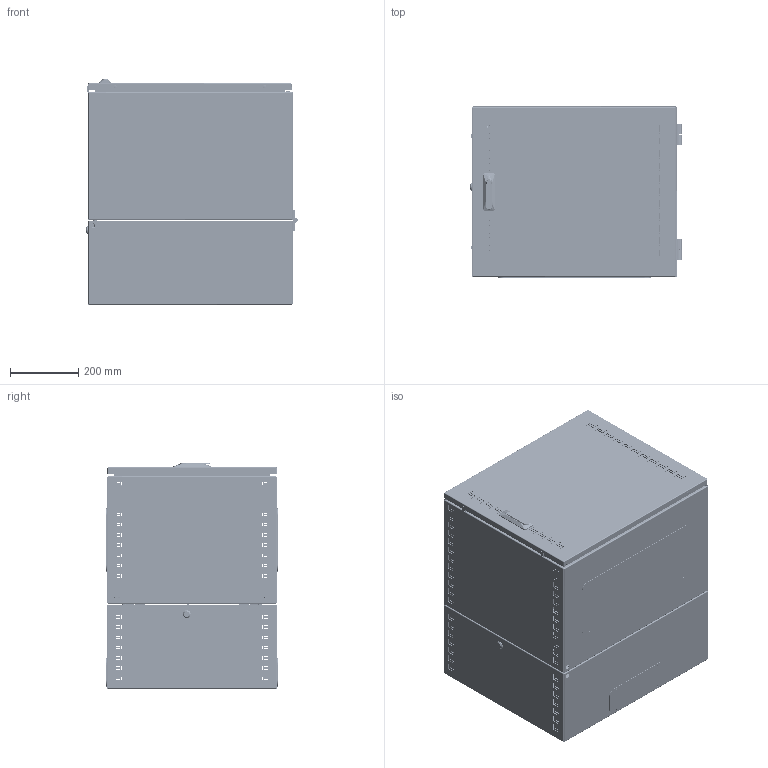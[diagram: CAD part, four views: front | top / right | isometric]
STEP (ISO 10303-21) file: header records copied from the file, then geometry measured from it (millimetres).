
FILE_DESCRIPTION (( 'STEP AP203' ), '1' );
FILE_NAME ('R5STI0965.STEP', '2019-07-16T12:12:07', ( '' ), ( '' ), 'SwSTEP 2.0', 'SolidWorks 2017', '' );
FILE_SCHEMA (( 'CONFIG_CONTROL_DESIGN' ));
Length unit declared in the file: millimetre
Products named in the file (49): Handle Mesan (part 3); RB.0374.03.01.0; RB.0374.05.01.0_-00 (500x600); Lock 20x17,5x90 Ruslock; RB.0692.03.01.0_-00 (500x600); RB.0374.00.02.0 mirror_-04 (9U); 4.8x13 DIN 7981 (R5A07)_straight; RB.0374.03.00.0 CÁ; AC00C398; Nut 20x17,5x90 Ruslock; RB.0374.01.02.0_-00 (500x600); M6x12-DIN 6921_stright; M6x10-A1100004_straight; RB.0048.02.01.0; RB.0374.05.00.0 捘_-00 (500x600); Ì6õ12-A5100231_straight; AC00C401_AC00C401; Handle 308 Mesan; AC00C399; AC00C112; RB.0692.04.00.0 捘_-00 (500x600); RB.0692.03.00.0 CÁ_-00 (500å600); AC00C380; RB.0374.06.00.0 捘_-00 (500x600); M4x8 GOST 17475-80 (DIN 965)_straight; PF 7,5x15 door STI_0500x0600; RB.0692.01.01.0_-00 (500x600x400); AC00C061_AC00C061; R5STI0965; RB.0374.00.01.0_-00 (400); AC00C383; Handle Mesan (part 1); RB.0692.01.02.0_-00 (500x600); RB.0374.04.01.0; MirrorRB.0374.00.01.0_-00 (400)<As Machined>; M6 art.MGR-MKO-0625_2洵; Handle Mesan (part 2); Ì6õ20-A5100001_straight; Hinge M8 60x60 Ruslock; RB.0374.04.00.0 CÁ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
Assembly tree (154 placements, depth 4):
  R5STI0965
    RB.0692.04.00.0 捘_-00 (500x600)
      RB.0692.03.00.0 CÁ_-00 (500å600)
        RB.0692.03.01.0_-00 (500x600)
        RB.0374.01.02.0_-00 (500x600)
        Ì6õ12-A5100231_straight  x2
      AC00C061_AC00C061  x4
      RB.0374.04.00.0 CÁ  x2
        RB.0374.04.01.0
        Ì6õ12-A5100231_straight
      M6-DIN 6923 (CM100600)_straight  x8
      Lock 20x17,5x90 Ruslock
        Lock 20x17,5x90 Ruslock
        Nut 20x17,5x90 Ruslock
    RB.0692.02.00.0 C縫-00 (500x600x400)
      RB.0692.01.00.0 C縫-00 (500x600x400)
        RB.0692.01.01.0_-00 (500x600x400)
        RB.0692.01.02.0_-00 (500x600)
        Ì6õ20-A5100001_straight  x4
        Ì6õ12-A5100231_straight  x10
      RB.0374.03.00.0 CÁ  x2
        RB.0374.03.01.0
        Ì6õ12-A5100231_straight
      RB.0048.02.01.0  x2
      AC00C399  x2
      M4x8 GOST 17475-80 (DIN 965)_straight  x4
      AC00C383  x2
      AC00C061_AC00C061  x8
      M6-DIN 6923 (CM100600)_straight  x8
      M6 art.MGR-MKO-0625_2洵  x2
      RB.0692.02.01.0  x2
    Hinge M8 60x60 Ruslock  x4
    M8-DIN 6923 (CM100800)_stright  x8
    RB.0374.06.00.0 捘_-00 (500x600)
      RB.0374.05.00.0 捘_-00 (500x600)
        RB.0374.05.01.0_-00 (500x600)
        AC00C398  x2
        Ì6õ12-A5100231_straight  x2
      AC00C112  x4
      AC00C061_AC00C061  x2
      PF 7,5x15 door STI_0500x0600
      Handle 308 Mesan
        Handle Mesan (part 1)
        Handle Mesan (part 2)
        Catch Mesan
        Handle Mesan (part 3)
        4.8x13 DIN 7981 (R5A07)_straight  x3
        M6x10-A1100004_straight
    RB.0374.00.01.0_-00 (400)
    MirrorRB.0374.00.01.0_-00 (400)<As Machined>  x2
    MirrorMirrorRB.0374.00.01.0_-00 (400)<As Machined><As Machined>
    RB.0374.00.02.0_-00 (9U)  x2
    RB.0374.00.02.0 mirror_-04 (9U)  x2
    M6-DIN 6923 (CM100600)_straight  x16
    M6x12-DIN 6921_stright  x8
    AC00C401_AC00C401  x2
    AC00C380  x2
Bounding box: 620 x 503 x 662.96 mm (x, y, z)
Volume: 3707844.5 mm3; surface area: 5293850.6 mm2
Topology: 215 solids, 215 shells, 7833 faces, 19837 edges, 12614 vertices
Faces by surface type: plane 4541, cylinder 1486, cone 782, bspline 770, torus 226, sphere 28
Entity records: 153542 total; most frequent: CARTESIAN_POINT 39476, ORIENTED_EDGE 22466, DIRECTION 20147, EDGE_CURVE 11233, VECTOR 8721, LINE 8721, VERTEX_POINT 7242, AXIS2_PLACEMENT_3D 5713
